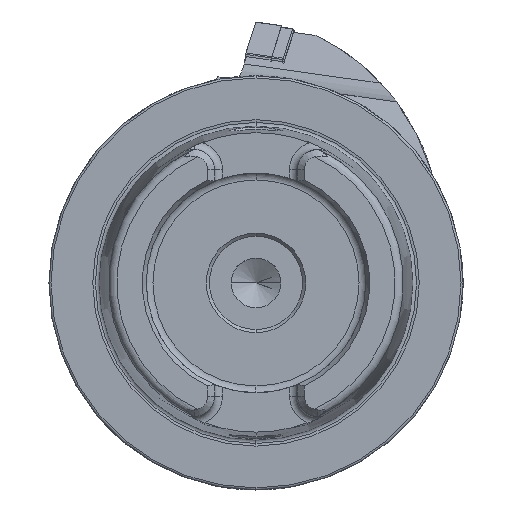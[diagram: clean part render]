
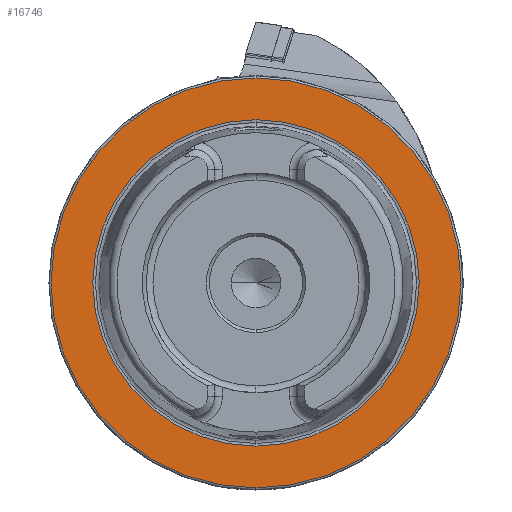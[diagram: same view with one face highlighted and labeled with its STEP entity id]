
A CAD part, left-side view. The second image highlights one B-rep face of the part: STEP entity #16746.
In plain terms, the highlighted planar face has unit normal (-1, 0, 0).
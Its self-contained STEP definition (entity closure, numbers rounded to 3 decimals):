
#356 = ORIENTED_EDGE ( 'NONE', *, *, #500, .T. ) ;
#421 = CARTESIAN_POINT ( 'NONE',  ( 0., 0., 0. ) ) ;
#500 = EDGE_CURVE ( 'NONE', #10362, #1017, #9148, .T. ) ;
#644 = ORIENTED_EDGE ( 'NONE', *, *, #3214, .F. ) ;
#729 = EDGE_LOOP ( 'NONE', ( #969, #356 ) ) ;
#969 = ORIENTED_EDGE ( 'NONE', *, *, #14917, .T. ) ;
#1017 = VERTEX_POINT ( 'NONE', #3572 ) ;
#2119 = AXIS2_PLACEMENT_3D ( 'NONE', #5359, #14890, #3166 ) ;
#3166 = DIRECTION ( 'NONE',  ( 0., 0., 1. ) ) ;
#3214 = EDGE_CURVE ( 'NONE', #6031, #11499, #12616, .T. ) ;
#3572 = CARTESIAN_POINT ( 'NONE',  ( 0., 0., 49.5 ) ) ;
#3797 = FACE_OUTER_BOUND ( 'NONE', #729, .T. ) ;
#4377 = CIRCLE ( 'NONE', #16929, 39.405 ) ;
#5359 = CARTESIAN_POINT ( 'NONE',  ( 0., 0., 0. ) ) ;
#5572 = DIRECTION ( 'NONE',  ( -1., 0., 0. ) ) ;
#6031 = VERTEX_POINT ( 'NONE', #11563 ) ;
#6471 = CARTESIAN_POINT ( 'NONE',  ( 0., 49.5, 0. ) ) ;
#8149 = CIRCLE ( 'NONE', #18671, 49.5 ) ;
#9139 = EDGE_LOOP ( 'NONE', ( #644, #10885 ) ) ;
#9148 = CIRCLE ( 'NONE', #9917, 49.5 ) ;
#9246 = EDGE_CURVE ( 'NONE', #11499, #6031, #4377, .T. ) ;
#9569 = DIRECTION ( 'NONE',  ( 0., 0., 1. ) ) ;
#9917 = AXIS2_PLACEMENT_3D ( 'NONE', #421, #20799, #20550 ) ;
#10362 = VERTEX_POINT ( 'NONE', #14248 ) ;
#10885 = ORIENTED_EDGE ( 'NONE', *, *, #9246, .F. ) ;
#11072 = CARTESIAN_POINT ( 'NONE',  ( 0., 0., 0. ) ) ;
#11499 = VERTEX_POINT ( 'NONE', #12513 ) ;
#11563 = CARTESIAN_POINT ( 'NONE',  ( 0., 0., 39.405 ) ) ;
#12513 = CARTESIAN_POINT ( 'NONE',  ( 0., 0., -39.405 ) ) ;
#12616 = CIRCLE ( 'NONE', #2119, 39.405 ) ;
#13115 = CARTESIAN_POINT ( 'NONE',  ( 0., 0., 0. ) ) ;
#14248 = CARTESIAN_POINT ( 'NONE',  ( 0., 0., -49.5 ) ) ;
#14890 = DIRECTION ( 'NONE',  ( -1., 0., 0. ) ) ;
#14917 = EDGE_CURVE ( 'NONE', #1017, #10362, #8149, .T. ) ;
#15733 = PLANE ( 'NONE',  #22606 ) ;
#16746 = ADVANCED_FACE ( 'NONE', ( #20507, #3797 ), #15733, .F. ) ;
#16929 = AXIS2_PLACEMENT_3D ( 'NONE', #11072, #5572, #20318 ) ;
#18671 = AXIS2_PLACEMENT_3D ( 'NONE', #13115, #22376, #9569 ) ;
#20318 = DIRECTION ( 'NONE',  ( 0., 0., 1. ) ) ;
#20507 = FACE_BOUND ( 'NONE', #9139, .T. ) ;
#20550 = DIRECTION ( 'NONE',  ( 0., 0., 1. ) ) ;
#20799 = DIRECTION ( 'NONE',  ( -1., 0., 0. ) ) ;
#21224 = DIRECTION ( 'NONE',  ( 0., 0., -1. ) ) ;
#22376 = DIRECTION ( 'NONE',  ( -1., 0., 0. ) ) ;
#22606 = AXIS2_PLACEMENT_3D ( 'NONE', #6471, #23188, #21224 ) ;
#23188 = DIRECTION ( 'NONE',  ( 1., 0., 0. ) ) ;
